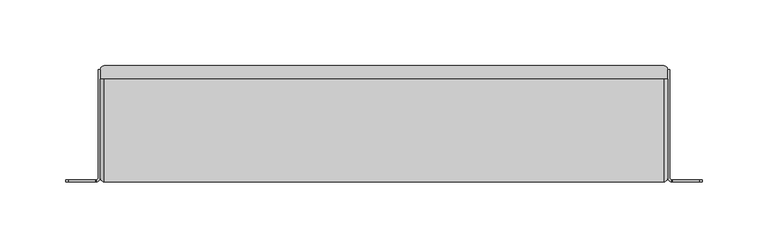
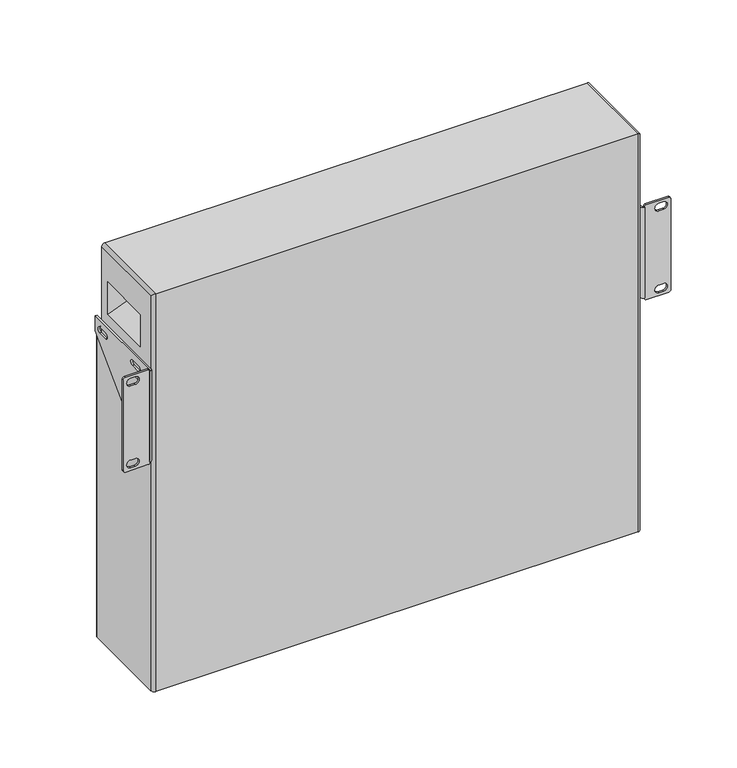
"""IFC4 building model written with IfcOpenShell, lengths in millimetres: proxy geometry, RBZ_Прибор_управления_оповещением_пожарный_Sonar_SPM-XXXXXXX-XX : SPM-A01025-AW."""

from ifc_helpers import new_model, si_unit, frame, origin, place, context, project, spatial, polyline, circle_curve, ellipse_curve, source, transform, mapped, element, save
from ifc_brep_helpers import plane_surface, cylinder_surface, revolved_surface, advanced_brep


def electrical_equipment_ae278c85(model_context):
    return source(origin(), model_context, "Body", "AdvancedBrep", [
        advanced_brep(
        [(219.0, 0.0, 213.5), (219.0, 1.5, 213.5), (239.0, 1.5, 213.5), (239.0, 0.0, 213.5), (219.0, 1.5, 301.5), (219.0, 0.0, 301.5), (239.0, 0.0, 301.5), (239.0, 1.5, 301.5), (215.0, 3.0, 215.5), (218.0, 0.0, 215.5), (218.0, 0.0, 299.5), (215.0, 3.0, 299.5), (215.0, 85.0, 299.5), (215.0, 85.0, 285.5), (215.0, 15.0, 215.5), (215.0, 78.5, 292.5), (215.0, 69.5, 292.5), (215.0, 69.5, 287.5), (215.0, 78.5, 287.5), (215.0, 28.5, 292.5), (215.0, 19.5, 292.5), (215.0, 19.5, 287.5), (215.0, 28.5, 287.5), (215.0, 21.5, 284.5), (215.0, 19.5, 284.5), (215.0, 19.5, 279.5), (215.0, 21.5, 279.5), (215.0, 21.5, 234.5), (215.0, 19.5, 234.5), (215.0, 19.5, 229.5), (215.0, 21.5, 229.5), (216.5, 85.0, 299.5), (216.5, 85.0, 285.5), (216.5, 3.0, 215.5), (216.5, 15.0, 215.5), (216.5, 3.0, 299.5), (216.5, 78.5, 287.5), (216.5, 69.5, 287.5), (216.5, 69.5, 292.5), (216.5, 78.5, 292.5), (216.5, 28.5, 287.5), (216.5, 19.5, 287.5), (216.5, 19.5, 292.5), (216.5, 28.5, 292.5), (216.5, 21.5, 279.5), (216.5, 19.5, 279.5), (216.5, 19.5, 284.5), (216.5, 21.5, 284.5), (216.5, 21.5, 229.5), (216.5, 19.5, 229.5), (216.5, 19.5, 234.5), (216.5, 21.5, 234.5), (218.0, 1.5, 299.5), (218.0, 1.5, 215.5), (218.0, 1.5, 214.5), (218.0, 1.5, 300.5), (241.0, 1.5, 299.5), (241.0, 1.5, 215.5), (230.5, 1.5, 299.0), (230.5, 1.5, 292.0), (234.5, 1.5, 292.0), (234.5, 1.5, 299.0), (230.5, 1.5, 223.0), (230.5, 1.5, 216.0), (234.5, 1.5, 216.0), (234.5, 1.5, 223.0), (241.0, 0.0, 299.5), (241.0, 0.0, 215.5), (218.0, 0.0, 300.5), (218.0, 0.0, 214.5), (234.5, 0.0, 299.0), (234.5, 0.0, 292.0), (230.5, 0.0, 292.0), (230.5, 0.0, 299.0), (234.5, 0.0, 223.0), (234.5, 0.0, 216.0), (230.5, 0.0, 216.0), (230.5, 0.0, 223.0)],
        [
            (0, 1),
            (1, 2),
            (2, 3),
            (3, 0),
            (4, 5),
            (5, 6),
            (6, 7),
            (7, 4),
            (8, 9, circle_curve(frame((218.0, 3.0, 215.5), z_axis=(0.0, 0.0, 1.0), x_axis=(1.0, 0.0, 0.0)), 3.0)),
            (9, 10),
            (10, 11, circle_curve(frame((218.0, 3.0, 299.5), z_axis=(0.0, 0.0, -1.0), x_axis=(1.0, 0.0, 0.0)), 3.0)),
            (11, 8),
            (11, 12),
            (12, 13),
            (13, 14),
            (14, 8),
            (15, 16),
            (16, 17, circle_curve(frame((215.0, 69.5, 290.0), z_axis=(1.0, 0.0, 0.0), x_axis=(0.0, -1.0, 0.0)), 2.5)),
            (17, 18),
            (18, 15, circle_curve(frame((215.0, 78.5, 290.0), z_axis=(1.0, 0.0, 0.0), x_axis=(0.0, 1.0, 0.0)), 2.5)),
            (19, 20),
            (20, 21, circle_curve(frame((215.0, 19.5, 290.0), z_axis=(1.0, 0.0, 0.0), x_axis=(0.0, -1.0, 0.0)), 2.5)),
            (21, 22),
            (22, 19, circle_curve(frame((215.0, 28.5, 290.0), z_axis=(1.0, 0.0, 0.0), x_axis=(0.0, 1.0, 0.0)), 2.5)),
            (23, 24),
            (24, 25, circle_curve(frame((215.0, 19.5, 282.0), z_axis=(1.0, 0.0, 0.0), x_axis=(0.0, -1.0, 0.0)), 2.5)),
            (25, 26),
            (26, 23, circle_curve(frame((215.0, 21.5, 282.0), z_axis=(1.0, 0.0, 0.0), x_axis=(0.0, 1.0, 0.0)), 2.5)),
            (27, 28),
            (28, 29, circle_curve(frame((215.0, 19.5, 232.0), z_axis=(1.0, 0.0, 0.0), x_axis=(0.0, -1.0, 0.0)), 2.5)),
            (29, 30),
            (30, 27, circle_curve(frame((215.0, 21.5, 232.0), z_axis=(1.0, 0.0, 0.0), x_axis=(0.0, 1.0, 0.0)), 2.5)),
            (31, 32),
            (32, 13),
            (12, 31),
            (33, 34),
            (34, 32),
            (31, 35),
            (35, 33),
            (36, 37),
            (37, 38, circle_curve(frame((216.5, 69.5, 290.0), z_axis=(-1.0, 0.0, 0.0), x_axis=(0.0, -1.0, 0.0)), 2.5)),
            (38, 39),
            (39, 36, circle_curve(frame((216.5, 78.5, 290.0), z_axis=(-1.0, 0.0, 0.0), x_axis=(0.0, 1.0, 0.0)), 2.5)),
            (40, 41),
            (41, 42, circle_curve(frame((216.5, 19.5, 290.0), z_axis=(-1.0, 0.0, 0.0), x_axis=(0.0, -1.0, 0.0)), 2.5)),
            (42, 43),
            (43, 40, circle_curve(frame((216.5, 28.5, 290.0), z_axis=(-1.0, 0.0, 0.0), x_axis=(0.0, 1.0, 0.0)), 2.5)),
            (44, 45),
            (45, 46, circle_curve(frame((216.5, 19.5, 282.0), z_axis=(-1.0, 0.0, 0.0), x_axis=(0.0, -1.0, 0.0)), 2.5)),
            (46, 47),
            (47, 44, circle_curve(frame((216.5, 21.5, 282.0), z_axis=(-1.0, 0.0, 0.0), x_axis=(0.0, 1.0, 0.0)), 2.5)),
            (48, 49),
            (49, 50, circle_curve(frame((216.5, 19.5, 232.0), z_axis=(-1.0, 0.0, 0.0), x_axis=(0.0, -1.0, 0.0)), 2.5)),
            (50, 51),
            (51, 48, circle_curve(frame((216.5, 21.5, 232.0), z_axis=(-1.0, 0.0, 0.0), x_axis=(0.0, 1.0, 0.0)), 2.5)),
            (35, 52, circle_curve(frame((218.0, 3.0, 299.5), z_axis=(0.0, 0.0, 1.0), x_axis=(1.0, 0.0, 0.0)), 1.5)),
            (52, 53),
            (53, 33, circle_curve(frame((218.0, 3.0, 215.5), z_axis=(0.0, 0.0, -1.0), x_axis=(1.0, 0.0, 0.0)), 1.5)),
            (1, 54, circle_curve(frame((219.0, 1.5, 214.5), z_axis=(0.0, 1.0, 0.0), x_axis=(-1.0, 0.0, 0.0)), 1.0)),
            (54, 53),
            (52, 55),
            (55, 4, circle_curve(frame((219.0, 1.5, 300.5), z_axis=(0.0, 1.0, 0.0), x_axis=(-1.0, 0.0, 0.0)), 1.0)),
            (7, 56, circle_curve(frame((239.0, 1.5, 299.5), z_axis=(0.0, 1.0, 0.0), x_axis=(-1.0, 0.0, 0.0)), 2.0)),
            (56, 57),
            (57, 2, circle_curve(frame((239.0, 1.5, 215.5), z_axis=(0.0, 1.0, 0.0), x_axis=(-1.0, 0.0, 0.0)), 2.0)),
            (58, 59, circle_curve(frame((230.5, 1.5, 295.5), z_axis=(0.0, -1.0, 0.0), x_axis=(-1.0, 0.0, 0.0)), 3.5)),
            (59, 60),
            (60, 61, circle_curve(frame((234.5, 1.5, 295.5), z_axis=(0.0, -1.0, 0.0), x_axis=(-1.0, 0.0, 0.0)), 3.5)),
            (61, 58),
            (62, 63, circle_curve(frame((230.5, 1.5, 219.5), z_axis=(0.0, -1.0, 0.0), x_axis=(-1.0, 0.0, 0.0)), 3.5)),
            (63, 64),
            (64, 65, circle_curve(frame((234.5, 1.5, 219.5), z_axis=(0.0, -1.0, 0.0), x_axis=(-1.0, 0.0, 0.0)), 3.5)),
            (65, 62),
            (56, 66),
            (66, 67),
            (67, 57),
            (3, 67, circle_curve(frame((239.0, 0.0, 215.5), z_axis=(0.0, -1.0, 0.0), x_axis=(-1.0, 0.0, 0.0)), 2.0)),
            (66, 6, circle_curve(frame((239.0, 0.0, 299.5), z_axis=(0.0, -1.0, 0.0), x_axis=(-1.0, 0.0, 0.0)), 2.0)),
            (5, 68, circle_curve(frame((219.0, 0.0, 300.5), z_axis=(0.0, -1.0, 0.0), x_axis=(-1.0, 0.0, 0.0)), 1.0)),
            (68, 10),
            (9, 69),
            (69, 0, circle_curve(frame((219.0, 0.0, 214.5), z_axis=(0.0, -1.0, 0.0), x_axis=(-1.0, 0.0, 0.0)), 1.0)),
            (70, 71, circle_curve(frame((234.5, 0.0, 295.5), z_axis=(0.0, 1.0, 0.0), x_axis=(-1.0, 0.0, 0.0)), 3.5)),
            (71, 72),
            (72, 73, circle_curve(frame((230.5, 0.0, 295.5), z_axis=(0.0, 1.0, 0.0), x_axis=(-1.0, 0.0, 0.0)), 3.5)),
            (73, 70),
            (74, 75, circle_curve(frame((234.5, 0.0, 219.5), z_axis=(0.0, 1.0, 0.0), x_axis=(-1.0, 0.0, 0.0)), 3.5)),
            (75, 76),
            (76, 77, circle_curve(frame((230.5, 0.0, 219.5), z_axis=(0.0, 1.0, 0.0), x_axis=(-1.0, 0.0, 0.0)), 3.5)),
            (77, 74),
            (73, 58),
            (61, 70),
            (72, 59),
            (71, 60),
            (77, 62),
            (65, 74),
            (76, 63),
            (75, 64),
            (55, 68),
            (10, 52),
            (69, 54),
            (9, 53),
            (14, 34),
            (39, 15),
            (18, 36),
            (17, 37),
            (16, 38),
            (43, 19),
            (22, 40),
            (21, 41),
            (20, 42),
            (47, 23),
            (26, 44),
            (25, 45),
            (24, 46),
            (51, 27),
            (30, 48),
            (29, 49),
            (28, 50),
        ],
        [
            plane_surface(frame((241.0, 0.0, 213.5), z_axis=(0.0, 0.0, -1.0), x_axis=(1.0, 0.0, 0.0))),
            plane_surface(frame((241.0, 0.0, 301.5), z_axis=(0.0, 0.0, 1.0), x_axis=(-1.0, 0.0, 0.0))),
            cylinder_surface(frame((218.0, 3.0, 301.5), z_axis=(0.0, 0.0, -1.0), x_axis=(1.0, 0.0, 0.0)), 3.0),
            plane_surface(frame((215.0, 85.0, 213.5), z_axis=(-1.0, 0.0, 0.0), x_axis=(0.0, 0.0, 1.0))),
            plane_surface(frame((216.5, 85.0, 213.5), z_axis=(0.0, 1.0, 0.0), x_axis=(0.0, 0.0, 1.0))),
            plane_surface(frame((216.5, 3.0, 213.5), z_axis=(1.0, 0.0, 0.0), x_axis=(0.0, 0.0, 1.0))),
            revolved_surface(polyline([(219.5, 3.0, 299.5), (219.5, 3.0, 215.5)]), (218.0, 3.0, 301.5), (0.0, 0.0, 1.0)),
            plane_surface(frame((241.0, 1.5, 213.5), z_axis=(0.0, 1.0, 0.0), x_axis=(0.0, 0.0, 1.0))),
            plane_surface(frame((241.0, 0.0, 213.5), z_axis=(1.0, 0.0, 0.0), x_axis=(0.0, 0.0, 1.0))),
            plane_surface(frame((218.0, 0.0, 213.5), z_axis=(0.0, -1.0, 0.0), x_axis=(0.0, 0.0, 1.0))),
            plane_surface(frame((234.5, 85.0, 299.0), z_axis=(0.0, 0.0, -1.0), x_axis=(0.0, -1.0, 0.0))),
            revolved_surface(polyline([(227.0, 1.5, 295.5), (227.0, 0.0, 295.5)]), (230.5, 0.0, 295.5), (0.0, 1.0, 0.0)),
            plane_surface(frame((230.5, 85.0, 292.0), z_axis=(0.0, 0.0, 1.0), x_axis=(0.0, -1.0, 0.0))),
            revolved_surface(polyline([(231.0, 1.5, 295.5), (231.0, 0.0, 295.5)]), (234.5, 0.0, 295.5), (0.0, 1.0, 0.0)),
            plane_surface(frame((234.5, 85.0, 223.0), z_axis=(0.0, 0.0, -1.0), x_axis=(0.0, -1.0, 0.0))),
            revolved_surface(polyline([(227.0, 1.5, 219.5), (227.0, 0.0, 219.5)]), (230.5, 0.0, 219.5), (0.0, 1.0, 0.0)),
            plane_surface(frame((230.5, 85.0, 216.0), z_axis=(0.0, 0.0, 1.0), x_axis=(0.0, -1.0, 0.0))),
            revolved_surface(polyline([(231.0, 1.5, 219.5), (231.0, 0.0, 219.5)]), (234.5, 0.0, 219.5), (0.0, 1.0, 0.0)),
            cylinder_surface(frame((219.0, 0.0, 300.5), z_axis=(0.0, -1.0, 0.0), x_axis=(-1.0, 0.0, 0.0)), 1.0),
            cylinder_surface(frame((239.0, 0.0, 299.5), z_axis=(0.0, -1.0, 0.0), x_axis=(-1.0, 0.0, 0.0)), 2.0),
            cylinder_surface(frame((239.0, 0.0, 215.5), z_axis=(0.0, -1.0, 0.0), x_axis=(-1.0, 0.0, 0.0)), 2.0),
            plane_surface(frame((215.0, 85.0, 299.5), z_axis=(0.0, 0.0, 1.0), x_axis=(0.0, -1.0, 0.0))),
            plane_surface(frame((218.0, 85.0, 299.5), z_axis=(-1.0, 0.0, 0.0), x_axis=(0.0, -1.0, 0.0))),
            cylinder_surface(frame((219.0, 0.0, 214.5), z_axis=(0.0, -1.0, 0.0), x_axis=(-1.0, 0.0, 0.0)), 1.0),
            plane_surface(frame((218.0, 85.0, 214.5), z_axis=(-1.0, 0.0, 0.0), x_axis=(0.0, -1.0, 0.0))),
            plane_surface(frame((218.0, 85.0, 215.5), z_axis=(0.0, 0.0, -1.0), x_axis=(0.0, -1.0, 0.0))),
            plane_surface(frame((216.5, 15.0, 215.5), z_axis=(0.0, 0.707106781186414, -0.707106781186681), x_axis=(-1.0, 0.0, 0.0))),
            revolved_surface(polyline([(216.5, 81.0, 290.0), (215.0, 81.0, 290.0)]), (215.0, 78.5, 290.0), (1.0, 0.0, 0.0)),
            plane_surface(frame((216.5, 78.5, 287.5), z_axis=(0.0, 0.0, 1.0), x_axis=(-1.0, 0.0, 0.0))),
            revolved_surface(polyline([(216.5, 67.0, 290.0), (215.0, 67.0, 290.0)]), (215.0, 69.5, 290.0), (1.0, 0.0, 0.0)),
            plane_surface(frame((216.5, 69.5, 292.5), z_axis=(0.0, 0.0, -1.0), x_axis=(-1.0, 0.0, 0.0))),
            revolved_surface(polyline([(216.5, 31.0, 290.0), (215.0, 31.0, 290.0)]), (215.0, 28.5, 290.0), (1.0, 0.0, 0.0)),
            plane_surface(frame((216.5, 28.5, 287.5), z_axis=(0.0, 0.0, 1.0), x_axis=(-1.0, 0.0, 0.0))),
            revolved_surface(polyline([(216.5, 17.0, 290.0), (215.0, 17.0, 290.0)]), (215.0, 19.5, 290.0), (1.0, 0.0, 0.0)),
            plane_surface(frame((216.5, 19.5, 292.5), z_axis=(0.0, 0.0, -1.0), x_axis=(-1.0, 0.0, 0.0))),
            revolved_surface(polyline([(216.5, 24.0, 282.0), (215.0, 24.0, 282.0)]), (215.0, 21.5, 282.0), (1.0, 0.0, 0.0)),
            plane_surface(frame((216.5, 21.5, 279.5), z_axis=(0.0, 0.0, 1.0), x_axis=(-1.0, 0.0, 0.0))),
            revolved_surface(polyline([(216.5, 17.0, 282.0), (215.0, 17.0, 282.0)]), (215.0, 19.5, 282.0), (1.0, 0.0, 0.0)),
            plane_surface(frame((216.5, 19.5, 284.5), z_axis=(0.0, 0.0, -1.0), x_axis=(-1.0, 0.0, 0.0))),
            revolved_surface(polyline([(216.5, 24.0, 232.0), (215.0, 24.0, 232.0)]), (215.0, 21.5, 232.0), (1.0, 0.0, 0.0)),
            plane_surface(frame((216.5, 21.5, 229.5), z_axis=(0.0, 0.0, 1.0), x_axis=(-1.0, 0.0, 0.0))),
            revolved_surface(polyline([(216.5, 17.0, 232.0), (215.0, 17.0, 232.0)]), (215.0, 19.5, 232.0), (1.0, 0.0, 0.0)),
            plane_surface(frame((216.5, 19.5, 234.5), z_axis=(0.0, 0.0, -1.0), x_axis=(-1.0, 0.0, 0.0))),
        ],
        [
            (0, [[1, 2, 3, 4]]),
            (1, [[5, 6, 7, 8]]),
            (2, [[9, 10, 11, 12]]),
            (3, [[13, 14, 15, 16, -12], [17, 18, 19, 20], [21, 22, 23, 24], [25, 26, 27, 28], [29, 30, 31, 32]]),
            (4, [[33, 34, -14, 35]]),
            (5, [[36, 37, -33, 38, 39], [40, 41, 42, 43], [44, 45, 46, 47], [48, 49, 50, 51], [52, 53, 54, 55]]),
            (6, [[56, 57, 58, -39]]),
            (7, [[59, 60, -57, 61, 62, -8, 63, 64, 65, -2], [66, 67, 68, 69], [70, 71, 72, 73]]),
            (8, [[74, 75, 76, -64]]),
            (9, [[77, -75, 78, -6, 79, 80, -10, 81, 82, -4], [83, 84, 85, 86], [87, 88, 89, 90]]),
            (10, [[-86, 91, -69, 92]]),
            (11, [[-85, 93, -66, -91]]),
            (12, [[-84, 94, -67, -93]]),
            (13, [[-68, -94, -83, -92]]),
            (14, [[-90, 95, -73, 96]]),
            (15, [[-89, 97, -70, -95]]),
            (16, [[-88, 98, -71, -97]]),
            (17, [[-72, -98, -87, -96]]),
            (18, [[-79, -5, -62, 99]]),
            (19, [[-78, -74, -63, -7]]),
            (20, [[-65, -76, -77, -3]]),
            (21, [[-56, -38, -35, -13, -11, 100]]),
            (22, [[-61, -100, -80, -99]]),
            (23, [[-59, -1, -82, 101]]),
            (24, [[-81, 102, -60, -101]]),
            (25, [[-9, -16, 103, -36, -58, -102]]),
            (26, [[-34, -37, -103, -15]]),
            (27, [[-43, 104, -20, 105]]),
            (28, [[-19, 106, -40, -105]]),
            (29, [[-18, 107, -41, -106]]),
            (30, [[-42, -107, -17, -104]]),
            (31, [[-47, 108, -24, 109]]),
            (32, [[-23, 110, -44, -109]]),
            (33, [[-22, 111, -45, -110]]),
            (34, [[-46, -111, -21, -108]]),
            (35, [[-51, 112, -28, 113]]),
            (36, [[-27, 114, -48, -113]]),
            (37, [[-26, 115, -49, -114]]),
            (38, [[-50, -115, -25, -112]]),
            (39, [[-55, 116, -32, 117]]),
            (40, [[-31, 118, -52, -117]]),
            (41, [[-30, 119, -53, -118]]),
            (42, [[-54, -119, -29, -116]]),
        ],
    ),
        advanced_brep(
        [(-219.0, 0.0, 213.5), (-239.0, 0.0, 213.5), (-239.0, 1.5, 213.5), (-219.0, 1.5, 213.5), (-219.0, 1.5, 301.5), (-239.0, 1.5, 301.5), (-239.0, 0.0, 301.5), (-219.0, 0.0, 301.5), (-215.0, 3.0, 215.5), (-215.0, 3.0, 299.5), (-218.0, 0.0, 299.5), (-218.0, 0.0, 215.5), (-215.0, 15.0, 215.5), (-215.0, 85.0, 285.5), (-215.0, 85.0, 299.5), (-215.0, 78.5, 292.5), (-215.0, 78.5, 287.5), (-215.0, 69.5, 287.5), (-215.0, 69.5, 292.5), (-215.0, 28.5, 292.5), (-215.0, 28.5, 287.5), (-215.0, 19.5, 287.5), (-215.0, 19.5, 292.5), (-215.0, 21.5, 284.5), (-215.0, 21.5, 279.5), (-215.0, 19.5, 279.5), (-215.0, 19.5, 284.5), (-215.0, 21.5, 234.5), (-215.0, 21.5, 229.5), (-215.0, 19.5, 229.5), (-215.0, 19.5, 234.5), (-216.5, 85.0, 299.5), (-216.5, 85.0, 285.5), (-216.5, 3.0, 215.5), (-216.5, 3.0, 299.5), (-216.5, 15.0, 215.5), (-216.5, 78.5, 287.5), (-216.5, 78.5, 292.5), (-216.5, 69.5, 292.5), (-216.5, 69.5, 287.5), (-216.5, 28.5, 287.5), (-216.5, 28.5, 292.5), (-216.5, 19.5, 292.5), (-216.5, 19.5, 287.5), (-216.5, 21.5, 279.5), (-216.5, 21.5, 284.5), (-216.5, 19.5, 284.5), (-216.5, 19.5, 279.5), (-216.5, 21.5, 229.5), (-216.5, 21.5, 234.5), (-216.5, 19.5, 234.5), (-216.5, 19.5, 229.5), (-218.0, 1.5, 215.5), (-218.0, 1.5, 299.5), (-241.0, 1.5, 215.5), (-241.0, 1.5, 299.5), (-218.0, 1.5, 300.5), (-218.0, 1.5, 214.5), (-230.5, 1.5, 299.0), (-234.5, 1.5, 299.0), (-234.5, 1.5, 292.0), (-230.5, 1.5, 292.0), (-230.5, 1.5, 223.0), (-234.5, 1.5, 223.0), (-234.5, 1.5, 216.0), (-230.5, 1.5, 216.0), (-241.0, 0.0, 215.5), (-241.0, 0.0, 299.5), (-218.0, 0.0, 214.5), (-218.0, 0.0, 300.5), (-234.5, 0.0, 299.0), (-230.5, 0.0, 299.0), (-230.5, 0.0, 292.0), (-234.5, 0.0, 292.0), (-234.5, 0.0, 223.0), (-230.5, 0.0, 223.0), (-230.5, 0.0, 216.0), (-234.5, 0.0, 216.0)],
        [
            (0, 1),
            (1, 2),
            (2, 3),
            (3, 0),
            (4, 5),
            (5, 6),
            (6, 7),
            (7, 4),
            (8, 9),
            (9, 10, circle_curve(frame((-218.0, 3.0, 299.5), z_axis=(0.0, 0.0, -1.0), x_axis=(-1.0, 0.0, 0.0)), 3.0)),
            (10, 11),
            (11, 8, circle_curve(frame((-218.0, 3.0, 215.5), z_axis=(0.0, 0.0, 1.0), x_axis=(-1.0, 0.0, 0.0)), 3.0)),
            (8, 12),
            (12, 13),
            (13, 14),
            (14, 9),
            (15, 16, circle_curve(frame((-215.0, 78.5, 290.0), z_axis=(-1.0, 0.0, 0.0), x_axis=(0.0, 1.0, 0.0)), 2.5)),
            (16, 17),
            (17, 18, circle_curve(frame((-215.0, 69.5, 290.0), z_axis=(-1.0, 0.0, 0.0), x_axis=(0.0, -1.0, 0.0)), 2.5)),
            (18, 15),
            (19, 20, circle_curve(frame((-215.0, 28.5, 290.0), z_axis=(-1.0, 0.0, 0.0), x_axis=(0.0, 1.0, 0.0)), 2.5)),
            (20, 21),
            (21, 22, circle_curve(frame((-215.0, 19.5, 290.0), z_axis=(-1.0, 0.0, 0.0), x_axis=(0.0, -1.0, 0.0)), 2.5)),
            (22, 19),
            (23, 24, circle_curve(frame((-215.0, 21.5, 282.0), z_axis=(-1.0, 0.0, 0.0), x_axis=(0.0, 1.0, 0.0)), 2.5)),
            (24, 25),
            (25, 26, circle_curve(frame((-215.0, 19.5, 282.0), z_axis=(-1.0, 0.0, 0.0), x_axis=(0.0, -1.0, 0.0)), 2.5)),
            (26, 23),
            (27, 28, circle_curve(frame((-215.0, 21.5, 232.0), z_axis=(-1.0, 0.0, 0.0), x_axis=(0.0, 1.0, 0.0)), 2.5)),
            (28, 29),
            (29, 30, circle_curve(frame((-215.0, 19.5, 232.0), z_axis=(-1.0, 0.0, 0.0), x_axis=(0.0, -1.0, 0.0)), 2.5)),
            (30, 27),
            (31, 14),
            (13, 32),
            (32, 31),
            (33, 34),
            (34, 31),
            (32, 35),
            (35, 33),
            (36, 37, circle_curve(frame((-216.5, 78.5, 290.0), z_axis=(1.0, 0.0, 0.0), x_axis=(0.0, 1.0, 0.0)), 2.5)),
            (37, 38),
            (38, 39, circle_curve(frame((-216.5, 69.5, 290.0), z_axis=(1.0, 0.0, 0.0), x_axis=(0.0, -1.0, 0.0)), 2.5)),
            (39, 36),
            (40, 41, circle_curve(frame((-216.5, 28.5, 290.0), z_axis=(1.0, 0.0, 0.0), x_axis=(0.0, 1.0, 0.0)), 2.5)),
            (41, 42),
            (42, 43, circle_curve(frame((-216.5, 19.5, 290.0), z_axis=(1.0, 0.0, 0.0), x_axis=(0.0, -1.0, 0.0)), 2.5)),
            (43, 40),
            (44, 45, circle_curve(frame((-216.5, 21.5, 282.0), z_axis=(1.0, 0.0, 0.0), x_axis=(0.0, 1.0, 0.0)), 2.5)),
            (45, 46),
            (46, 47, circle_curve(frame((-216.5, 19.5, 282.0), z_axis=(1.0, 0.0, 0.0), x_axis=(0.0, -1.0, 0.0)), 2.5)),
            (47, 44),
            (48, 49, circle_curve(frame((-216.5, 21.5, 232.0), z_axis=(1.0, 0.0, 0.0), x_axis=(0.0, 1.0, 0.0)), 2.5)),
            (49, 50),
            (50, 51, circle_curve(frame((-216.5, 19.5, 232.0), z_axis=(1.0, 0.0, 0.0), x_axis=(0.0, -1.0, 0.0)), 2.5)),
            (51, 48),
            (33, 52, circle_curve(frame((-218.0, 3.0, 215.5), z_axis=(0.0, 0.0, -1.0), x_axis=(-1.0, 0.0, 0.0)), 1.5)),
            (52, 53),
            (53, 34, circle_curve(frame((-218.0, 3.0, 299.5), z_axis=(0.0, 0.0, 1.0), x_axis=(-1.0, 0.0, 0.0)), 1.5)),
            (2, 54, circle_curve(frame((-239.0, 1.5, 215.5), z_axis=(0.0, 1.0, 0.0), x_axis=(1.0, 0.0, 0.0)), 2.0)),
            (54, 55),
            (55, 5, circle_curve(frame((-239.0, 1.5, 299.5), z_axis=(0.0, 1.0, 0.0), x_axis=(1.0, 0.0, 0.0)), 2.0)),
            (4, 56, circle_curve(frame((-219.0, 1.5, 300.5), z_axis=(0.0, 1.0, 0.0), x_axis=(1.0, 0.0, 0.0)), 1.0)),
            (56, 53),
            (52, 57),
            (57, 3, circle_curve(frame((-219.0, 1.5, 214.5), z_axis=(0.0, 1.0, 0.0), x_axis=(1.0, 0.0, 0.0)), 1.0)),
            (58, 59),
            (59, 60, circle_curve(frame((-234.5, 1.5, 295.5), z_axis=(0.0, -1.0, 0.0), x_axis=(1.0, 0.0, 0.0)), 3.5)),
            (60, 61),
            (61, 58, circle_curve(frame((-230.5, 1.5, 295.5), z_axis=(0.0, -1.0, 0.0), x_axis=(1.0, 0.0, 0.0)), 3.5)),
            (62, 63),
            (63, 64, circle_curve(frame((-234.5, 1.5, 219.5), z_axis=(0.0, -1.0, 0.0), x_axis=(1.0, 0.0, 0.0)), 3.5)),
            (64, 65),
            (65, 62, circle_curve(frame((-230.5, 1.5, 219.5), z_axis=(0.0, -1.0, 0.0), x_axis=(1.0, 0.0, 0.0)), 3.5)),
            (54, 66),
            (66, 67),
            (67, 55),
            (0, 68, circle_curve(frame((-219.0, 0.0, 214.5), z_axis=(0.0, -1.0, 0.0), x_axis=(1.0, 0.0, 0.0)), 1.0)),
            (68, 11),
            (10, 69),
            (69, 7, circle_curve(frame((-219.0, 0.0, 300.5), z_axis=(0.0, -1.0, 0.0), x_axis=(1.0, 0.0, 0.0)), 1.0)),
            (6, 67, circle_curve(frame((-239.0, 0.0, 299.5), z_axis=(0.0, -1.0, 0.0), x_axis=(1.0, 0.0, 0.0)), 2.0)),
            (66, 1, circle_curve(frame((-239.0, 0.0, 215.5), z_axis=(0.0, -1.0, 0.0), x_axis=(1.0, 0.0, 0.0)), 2.0)),
            (70, 71),
            (71, 72, circle_curve(frame((-230.5, 0.0, 295.5), z_axis=(0.0, 1.0, 0.0), x_axis=(1.0, 0.0, 0.0)), 3.5)),
            (72, 73),
            (73, 70, circle_curve(frame((-234.5, 0.0, 295.5), z_axis=(0.0, 1.0, 0.0), x_axis=(1.0, 0.0, 0.0)), 3.5)),
            (74, 75),
            (75, 76, circle_curve(frame((-230.5, 0.0, 219.5), z_axis=(0.0, 1.0, 0.0), x_axis=(1.0, 0.0, 0.0)), 3.5)),
            (76, 77),
            (77, 74, circle_curve(frame((-234.5, 0.0, 219.5), z_axis=(0.0, 1.0, 0.0), x_axis=(1.0, 0.0, 0.0)), 3.5)),
            (70, 59),
            (58, 71),
            (61, 72),
            (60, 73),
            (74, 63),
            (62, 75),
            (65, 76),
            (64, 77),
            (69, 56),
            (53, 10),
            (57, 68),
            (52, 11),
            (35, 12),
            (36, 16),
            (15, 37),
            (39, 17),
            (38, 18),
            (40, 20),
            (19, 41),
            (43, 21),
            (42, 22),
            (44, 24),
            (23, 45),
            (47, 25),
            (46, 26),
            (48, 28),
            (27, 49),
            (51, 29),
            (50, 30),
        ],
        [
            plane_surface(frame((-241.0, 0.0, 213.5), z_axis=(0.0, 0.0, -1.0), x_axis=(-1.0, 0.0, 0.0))),
            plane_surface(frame((-241.0, 0.0, 301.5), z_axis=(0.0, 0.0, 1.0), x_axis=(1.0, 0.0, 0.0))),
            cylinder_surface(frame((-218.0, 3.0, 301.5), z_axis=(0.0, 0.0, -1.0), x_axis=(-1.0, 0.0, 0.0)), 3.0),
            plane_surface(frame((-215.0, 85.0, 213.5), z_axis=(1.0, 0.0, 0.0), x_axis=(0.0, 0.0, 1.0))),
            plane_surface(frame((-216.5, 85.0, 213.5), z_axis=(0.0, 1.0, 0.0), x_axis=(0.0, 0.0, 1.0))),
            plane_surface(frame((-216.5, 3.0, 213.5), z_axis=(-1.0, 0.0, 0.0), x_axis=(0.0, 0.0, 1.0))),
            revolved_surface(polyline([(-219.5, 3.0, 299.5), (-219.5, 3.0, 215.5)]), (-218.0, 3.0, 301.5), (0.0, 0.0, 1.0)),
            plane_surface(frame((-241.0, 1.5, 213.5), z_axis=(0.0, 1.0, 0.0), x_axis=(0.0, 0.0, 1.0))),
            plane_surface(frame((-241.0, 0.0, 213.5), z_axis=(-1.0, 0.0, 0.0), x_axis=(0.0, 0.0, 1.0))),
            plane_surface(frame((-218.0, 0.0, 213.5), z_axis=(0.0, -1.0, 0.0), x_axis=(0.0, 0.0, 1.0))),
            plane_surface(frame((-234.5, 85.0, 299.0), z_axis=(0.0, 0.0, -1.0), x_axis=(0.0, -1.0, 0.0))),
            revolved_surface(polyline([(-227.0, 1.5, 295.5), (-227.0, 0.0, 295.5)]), (-230.5, 0.0, 295.5), (0.0, 1.0, 0.0)),
            plane_surface(frame((-230.5, 85.0, 292.0), z_axis=(0.0, 0.0, 1.0), x_axis=(0.0, -1.0, 0.0))),
            revolved_surface(polyline([(-231.0, 1.5, 295.5), (-231.0, 0.0, 295.5)]), (-234.5, 0.0, 295.5), (0.0, 1.0, 0.0)),
            plane_surface(frame((-234.5, 85.0, 223.0), z_axis=(0.0, 0.0, -1.0), x_axis=(0.0, -1.0, 0.0))),
            revolved_surface(polyline([(-227.0, 1.5, 219.5), (-227.0, 0.0, 219.5)]), (-230.5, 0.0, 219.5), (0.0, 1.0, 0.0)),
            plane_surface(frame((-230.5, 85.0, 216.0), z_axis=(0.0, 0.0, 1.0), x_axis=(0.0, -1.0, 0.0))),
            revolved_surface(polyline([(-231.0, 1.5, 219.5), (-231.0, 0.0, 219.5)]), (-234.5, 0.0, 219.5), (0.0, 1.0, 0.0)),
            cylinder_surface(frame((-219.0, 0.0, 300.5), z_axis=(0.0, -1.0, 0.0), x_axis=(1.0, 0.0, 0.0)), 1.0),
            cylinder_surface(frame((-239.0, 0.0, 299.5), z_axis=(0.0, -1.0, 0.0), x_axis=(1.0, 0.0, 0.0)), 2.0),
            cylinder_surface(frame((-239.0, 0.0, 215.5), z_axis=(0.0, -1.0, 0.0), x_axis=(1.0, 0.0, 0.0)), 2.0),
            plane_surface(frame((-215.0, 85.0, 299.5), z_axis=(0.0, 0.0, 1.0), x_axis=(0.0, -1.0, 0.0))),
            plane_surface(frame((-218.0, 85.0, 299.5), z_axis=(1.0, 0.0, 0.0), x_axis=(0.0, -1.0, 0.0))),
            cylinder_surface(frame((-219.0, 0.0, 214.5), z_axis=(0.0, -1.0, 0.0), x_axis=(1.0, 0.0, 0.0)), 1.0),
            plane_surface(frame((-218.0, 85.0, 214.5), z_axis=(1.0, 0.0, 0.0), x_axis=(0.0, -1.0, 0.0))),
            plane_surface(frame((-218.0, 85.0, 215.5), z_axis=(0.0, 0.0, -1.0), x_axis=(0.0, -1.0, 0.0))),
            plane_surface(frame((-216.5, 15.0, 215.5), z_axis=(0.0, 0.707106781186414, -0.707106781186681), x_axis=(1.0, 0.0, 0.0))),
            revolved_surface(polyline([(-216.5, 81.0, 290.0), (-215.0, 81.0, 290.0)]), (-215.0, 78.5, 290.0), (-1.0, 0.0, 0.0)),
            plane_surface(frame((-216.5, 78.5, 287.5), z_axis=(0.0, 0.0, 1.0), x_axis=(1.0, 0.0, 0.0))),
            revolved_surface(polyline([(-216.5, 67.0, 290.0), (-215.0, 67.0, 290.0)]), (-215.0, 69.5, 290.0), (-1.0, 0.0, 0.0)),
            plane_surface(frame((-216.5, 69.5, 292.5), z_axis=(0.0, 0.0, -1.0), x_axis=(1.0, 0.0, 0.0))),
            revolved_surface(polyline([(-216.5, 31.0, 290.0), (-215.0, 31.0, 290.0)]), (-215.0, 28.5, 290.0), (-1.0, 0.0, 0.0)),
            plane_surface(frame((-216.5, 28.5, 287.5), z_axis=(0.0, 0.0, 1.0), x_axis=(1.0, 0.0, 0.0))),
            revolved_surface(polyline([(-216.5, 17.0, 290.0), (-215.0, 17.0, 290.0)]), (-215.0, 19.5, 290.0), (-1.0, 0.0, 0.0)),
            plane_surface(frame((-216.5, 19.5, 292.5), z_axis=(0.0, 0.0, -1.0), x_axis=(1.0, 0.0, 0.0))),
            revolved_surface(polyline([(-216.5, 24.0, 282.0), (-215.0, 24.0, 282.0)]), (-215.0, 21.5, 282.0), (-1.0, 0.0, 0.0)),
            plane_surface(frame((-216.5, 21.5, 279.5), z_axis=(0.0, 0.0, 1.0), x_axis=(1.0, 0.0, 0.0))),
            revolved_surface(polyline([(-216.5, 17.0, 282.0), (-215.0, 17.0, 282.0)]), (-215.0, 19.5, 282.0), (-1.0, 0.0, 0.0)),
            plane_surface(frame((-216.5, 19.5, 284.5), z_axis=(0.0, 0.0, -1.0), x_axis=(1.0, 0.0, 0.0))),
            revolved_surface(polyline([(-216.5, 24.0, 232.0), (-215.0, 24.0, 232.0)]), (-215.0, 21.5, 232.0), (-1.0, 0.0, 0.0)),
            plane_surface(frame((-216.5, 21.5, 229.5), z_axis=(0.0, 0.0, 1.0), x_axis=(1.0, 0.0, 0.0))),
            revolved_surface(polyline([(-216.5, 17.0, 232.0), (-215.0, 17.0, 232.0)]), (-215.0, 19.5, 232.0), (-1.0, 0.0, 0.0)),
            plane_surface(frame((-216.5, 19.5, 234.5), z_axis=(0.0, 0.0, -1.0), x_axis=(1.0, 0.0, 0.0))),
        ],
        [
            (0, [[1, 2, 3, 4]]),
            (1, [[5, 6, 7, 8]]),
            (2, [[9, 10, 11, 12]]),
            (3, [[-9, 13, 14, 15, 16], [17, 18, 19, 20], [21, 22, 23, 24], [25, 26, 27, 28], [29, 30, 31, 32]]),
            (4, [[33, -15, 34, 35]]),
            (5, [[36, 37, -35, 38, 39], [40, 41, 42, 43], [44, 45, 46, 47], [48, 49, 50, 51], [52, 53, 54, 55]]),
            (6, [[-36, 56, 57, 58]]),
            (7, [[-3, 59, 60, 61, -5, 62, 63, -57, 64, 65], [66, 67, 68, 69], [70, 71, 72, 73]]),
            (8, [[-60, 74, 75, 76]]),
            (9, [[-1, 77, 78, -11, 79, 80, -7, 81, -75, 82], [83, 84, 85, 86], [87, 88, 89, 90]]),
            (10, [[91, -66, 92, -83]]),
            (11, [[-92, -69, 93, -84]]),
            (12, [[-93, -68, 94, -85]]),
            (13, [[-91, -86, -94, -67]]),
            (14, [[95, -70, 96, -87]]),
            (15, [[-96, -73, 97, -88]]),
            (16, [[-97, -72, 98, -89]]),
            (17, [[-95, -90, -98, -71]]),
            (18, [[99, -62, -8, -80]]),
            (19, [[-6, -61, -76, -81]]),
            (20, [[-2, -82, -74, -59]]),
            (21, [[100, -10, -16, -33, -37, -58]]),
            (22, [[-99, -79, -100, -63]]),
            (23, [[101, -77, -4, -65]]),
            (24, [[-101, -64, 102, -78]]),
            (25, [[-102, -56, -39, 103, -13, -12]]),
            (26, [[-14, -103, -38, -34]]),
            (27, [[104, -17, 105, -40]]),
            (28, [[-104, -43, 106, -18]]),
            (29, [[-106, -42, 107, -19]]),
            (30, [[-105, -20, -107, -41]]),
            (31, [[108, -21, 109, -44]]),
            (32, [[-108, -47, 110, -22]]),
            (33, [[-110, -46, 111, -23]]),
            (34, [[-109, -24, -111, -45]]),
            (35, [[112, -25, 113, -48]]),
            (36, [[-112, -51, 114, -26]]),
            (37, [[-114, -50, 115, -27]]),
            (38, [[-113, -28, -115, -49]]),
            (39, [[116, -29, 117, -52]]),
            (40, [[-116, -55, 118, -30]]),
            (41, [[-118, -54, 119, -31]]),
            (42, [[-117, -32, -119, -53]]),
        ],
    ),
        advanced_brep(
        [(-212.0, 0.0, 370.0), (212.0, 0.0, 370.0), (212.0, 78.0, 370.0), (-212.0, 78.0, 370.0), (212.0, 88.0, 0.0), (215.0, 85.0, 0.0), (215.0, 3.0, 0.0), (212.0, 0.0, 0.0), (-212.0, 0.0, 0.0), (-215.0, 3.0, 0.0), (-215.0, 85.0, 0.0), (-212.0, 88.0, 0.0), (-212.0, 88.0, 282.0), (212.0, 88.0, 282.0), (-215.0, 3.0, 367.0), (-215.0, 78.0, 367.0), (-215.0, 78.0, 282.0), (-215.0, 85.0, 282.0), (-215.0, 69.0, 310.0), (-215.0, 69.0, 340.0), (-215.0, 19.0, 340.0), (-215.0, 19.0, 310.0), (215.0, 85.0, 282.0), (215.0, 78.0, 282.0), (215.0, 78.0, 367.0), (215.0, 3.0, 367.0), (215.0, 69.0, 340.0), (215.0, 69.0, 310.0), (215.0, 19.0, 310.0), (215.0, 19.0, 340.0), (190.0, 69.0, 340.0), (190.0, 69.0, 320.0), (-190.0, 69.0, 320.0), (-190.0, 69.0, 340.0), (190.0, 19.0, 320.0), (190.0, 19.0, 340.0), (-190.0, 19.0, 340.0), (-190.0, 19.0, 320.0)],
        [
            (0, 1),
            (1, 2),
            (2, 3),
            (3, 0),
            (4, 5, circle_curve(frame((212.0, 85.0, 0.0), z_axis=(0.0, 0.0, -1.0), x_axis=(1.0, 0.0, 0.0)), 3.0)),
            (5, 6),
            (6, 7, circle_curve(frame((212.0, 3.0, 0.0), z_axis=(0.0, 0.0, -1.0), x_axis=(1.0, 0.0, 0.0)), 3.0)),
            (7, 8),
            (8, 9, circle_curve(frame((-212.0, 3.0, 0.0), z_axis=(0.0, 0.0, -1.0), x_axis=(1.0, 0.0, 0.0)), 3.0)),
            (9, 10),
            (10, 11, circle_curve(frame((-212.0, 85.0, 0.0), z_axis=(0.0, 0.0, -1.0), x_axis=(1.0, 0.0, 0.0)), 3.0)),
            (11, 4),
            (11, 12),
            (12, 13),
            (13, 4),
            (9, 14),
            (14, 15),
            (15, 16),
            (16, 17),
            (17, 10),
            (18, 19),
            (19, 20),
            (20, 21),
            (21, 18),
            (0, 8),
            (7, 1),
            (5, 22),
            (22, 23),
            (23, 24),
            (24, 25),
            (25, 6),
            (26, 27),
            (27, 28),
            (28, 29),
            (29, 26),
            (23, 16),
            (15, 3, circle_curve(frame((-212.0, 78.0, 367.0), z_axis=(0.0, 1.0, 0.0), x_axis=(1.0, 0.0, 0.0)), 3.0)),
            (2, 24, circle_curve(frame((212.0, 78.0, 367.0), z_axis=(0.0, 1.0, 0.0), x_axis=(1.0, 0.0, 0.0)), 3.0)),
            (22, 13, circle_curve(frame((212.0, 85.0, 282.0), z_axis=(0.0, 0.0, 1.0), x_axis=(1.0, 0.0, 0.0)), 3.0)),
            (12, 17, circle_curve(frame((-212.0, 85.0, 282.0), z_axis=(0.0, 0.0, 1.0), x_axis=(1.0, 0.0, 0.0)), 3.0)),
            (0, 14, ellipse_curve(frame((-212.0, 3.0, 367.0), z_axis=(0.0, -0.7071067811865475, -0.7071067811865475), x_axis=(0.0, -0.7071067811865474, 0.7071067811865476)), 4.2426407, 3.0)),
            (25, 1, ellipse_curve(frame((212.0, 3.0, 367.0), z_axis=(0.0, -0.7071067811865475, -0.7071067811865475), x_axis=(0.0, -0.7071067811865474, 0.7071067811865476)), 4.2426407, 3.0)),
            (26, 30),
            (30, 31),
            (31, 27),
            (18, 32),
            (32, 33),
            (33, 19),
            (28, 34),
            (34, 35),
            (35, 29),
            (20, 36),
            (36, 37),
            (37, 21),
            (35, 30),
            (34, 31),
            (37, 32),
            (36, 33),
        ],
        [
            plane_surface(frame((-215.0, 88.0, 370.0), z_axis=(0.0, 0.0, 1.0), x_axis=(-1.0, 0.0, 0.0))),
            plane_surface(frame((-215.0, 88.0, 0.0), z_axis=(0.0, 0.0, -1.0), x_axis=(1.0, 0.0, 0.0))),
            plane_surface(frame((212.0, 88.0, 370.0), z_axis=(0.0, 1.0, 0.0), x_axis=(0.0, 0.0, -1.0))),
            plane_surface(frame((-215.0, 85.0, 370.0), z_axis=(-1.0, 0.0, 0.0), x_axis=(0.0, 0.0, -1.0))),
            plane_surface(frame((-212.0, 0.0, 370.0), z_axis=(0.0, -1.0, 0.0), x_axis=(0.0, 0.0, -1.0))),
            plane_surface(frame((215.0, 3.0, 370.0), z_axis=(1.0, 0.0, 0.0), x_axis=(0.0, 0.0, -1.0))),
            plane_surface(frame((-215.0, 78.0, 282.0), z_axis=(0.0, 1.0, 0.0), x_axis=(1.0, 0.0, 0.0))),
            plane_surface(frame((215.0, 88.0, 282.0), z_axis=(0.0, 0.0, 1.0), x_axis=(0.0, -1.0, 0.0))),
            cylinder_surface(frame((-212.0, 85.0, 0.0), z_axis=(0.0, 0.0, 1.0), x_axis=(1.0, 0.0, 0.0)), 3.0),
            cylinder_surface(frame((-212.0, 3.0, 0.0), z_axis=(0.0, 0.0, 1.0), x_axis=(1.0, 0.0, 0.0)), 3.0),
            cylinder_surface(frame((212.0, 3.0, 0.0), z_axis=(0.0, 0.0, 1.0), x_axis=(1.0, 0.0, 0.0)), 3.0),
            cylinder_surface(frame((212.0, 85.0, 0.0), z_axis=(0.0, 0.0, 1.0), x_axis=(1.0, 0.0, 0.0)), 3.0),
            cylinder_surface(frame((212.0, 88.0, 367.0), z_axis=(0.0, 1.0, 0.0), x_axis=(1.0, 0.0, 0.0)), 3.0),
            cylinder_surface(frame((-212.0, 0.0, 367.0), z_axis=(0.0, 1.0, 0.0), x_axis=(1.0, 0.0, 0.0)), 3.0),
            plane_surface(frame((190.0, 69.0, 320.0), z_axis=(0.0, -1.0, 0.0), x_axis=(-0.9284766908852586, 0.0, 0.37139067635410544))),
            plane_surface(frame((190.0, 19.0, 320.0), z_axis=(0.0, 1.0, 0.0), x_axis=(0.9284766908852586, 0.0, -0.37139067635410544))),
            plane_surface(frame((190.0, 69.0, 340.0), z_axis=(0.0, 0.0, -1.0), x_axis=(0.0, -1.0, 0.0))),
            plane_surface(frame((190.0, 69.0, 320.0), z_axis=(1.0, 0.0, 0.0), x_axis=(0.0, -1.0, 0.0))),
            plane_surface(frame((215.0, 69.0, 310.0), z_axis=(0.37139067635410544, 0.0, 0.9284766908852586), x_axis=(0.0, -1.0, 0.0))),
            plane_surface(frame((-190.0, 69.0, 320.0), z_axis=(-0.37139067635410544, 0.0, 0.9284766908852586), x_axis=(0.0, -1.0, 0.0))),
            plane_surface(frame((-190.0, 69.0, 340.0), z_axis=(-1.0, 0.0, 0.0), x_axis=(0.0, -1.0, 0.0))),
            plane_surface(frame((-215.0, 69.0, 340.0), z_axis=(0.0, 0.0, -1.0), x_axis=(0.0, -1.0, 0.0))),
        ],
        [
            (0, [[1, 2, 3, 4]]),
            (1, [[5, 6, 7, 8, 9, 10, 11, 12]]),
            (2, [[-12, 13, 14, 15]]),
            (3, [[-10, 16, 17, 18, 19, 20], [21, 22, 23, 24]]),
            (4, [[-1, 25, -8, 26]]),
            (5, [[-6, 27, 28, 29, 30, 31], [32, 33, 34, 35]]),
            (6, [[36, -18, 37, -3, 38, -29]]),
            (7, [[-36, -28, 39, -14, 40, -19]]),
            (8, [[-11, -20, -40, -13]]),
            (9, [[-9, -25, 41, -16]]),
            (10, [[-7, -31, 42, -26]]),
            (11, [[-5, -15, -39, -27]]),
            (12, [[-2, -42, -30, -38]]),
            (13, [[-4, -37, -17, -41]]),
            (14, [[43, 44, 45, -32]]),
            (14, [[46, 47, 48, -21]]),
            (15, [[49, 50, 51, -34]]),
            (15, [[52, 53, 54, -23]]),
            (16, [[-43, -35, -51, 55]]),
            (17, [[-44, -55, -50, 56]]),
            (18, [[-45, -56, -49, -33]]),
            (19, [[-46, -24, -54, 57]]),
            (20, [[-47, -57, -53, 58]]),
            (21, [[-48, -58, -52, -22]]),
        ],
    ),
    ])


if __name__ == "__main__":
    model = new_model("IFC4")
    model_context = context("Model", 3, world=origin())
    ifc_project = project(units=[si_unit("LENGTHUNIT", "METRE", prefix="MILLI")], contexts=[model_context])
    site = spatial("IfcSite", under=ifc_project)
    building = spatial("IfcBuilding", under=site)
    placement = place(None, origin())
    electrical_equipment_shape = electrical_equipment_ae278c85(model_context)
    element("IfcBuildingElementProxy", 1, Name="RBZ_Прибор_управления_оповещением_пожарный_Sonar_SPM-XXXXXXX-XX : SPM-A01025-AW", ObjectType="RBZ_Прибор_управления_оповещением_пожарный_Sonar_SPM-XXXXXXX-XX : SPM-A01025-AW", at=placement, inside=building, context=model_context, shape_type="MappedRepresentation", body=[
        mapped(electrical_equipment_shape, transform((0.0, 0.0, 0.0), x_axis=(1.0, 0.0, 0.0), y_axis=(0.0, 1.0, 0.0), z_axis=(0.0, 0.0, 1.0))),
    ])
    save(model, "model.ifc")
